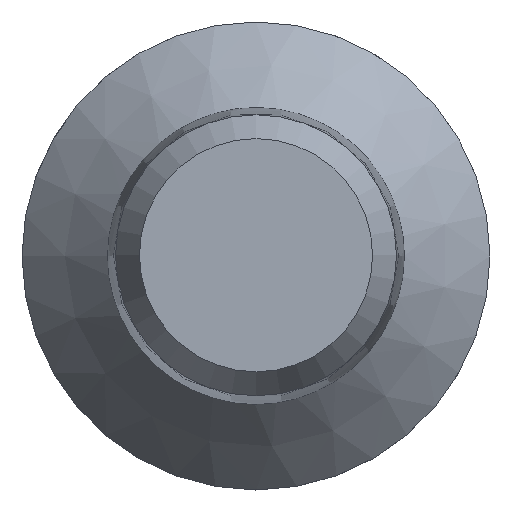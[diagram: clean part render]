
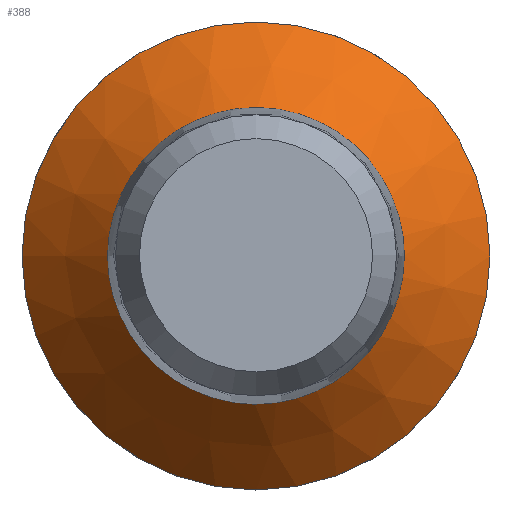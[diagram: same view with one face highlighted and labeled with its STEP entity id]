
A CAD part, top view. The second image highlights one B-rep face of the part: STEP entity #388.
In plain terms, the highlighted conical face has half-angle 41.186 degrees and reference radius 1.65 mm.
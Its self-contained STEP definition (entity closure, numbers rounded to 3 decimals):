
#120=B_SPLINE_CURVE_WITH_KNOTS('',3,(#575,#576,#577,#578,#579,#580,#581,
#582,#583,#584,#585),.UNSPECIFIED.,.F.,.F.,(4,1,1,1,1,1,1,1,4),(0.,0.125,
0.25,0.375,0.5,0.625,0.75,0.875,1.),.UNSPECIFIED.);
#121=ORIENTED_EDGE('',*,*,#227,.T.);
#122=ORIENTED_EDGE('',*,*,#228,.F.);
#227=EDGE_CURVE('',#280,#280,#317,.T.);
#228=EDGE_CURVE('',#281,#281,#120,.F.);
#280=VERTEX_POINT('',#574);
#281=VERTEX_POINT('',#586);
#317=CIRCLE('',#425,2.05);
#329=EDGE_LOOP('',(#121));
#330=EDGE_LOOP('',(#122));
#357=FACE_BOUND('',#329,.T.);
#358=FACE_BOUND('',#330,.T.);
#385=CONICAL_SURFACE('',#424,1.65,0.719);
#388=ADVANCED_FACE('',(#357,#358),#385,.T.);
#424=AXIS2_PLACEMENT_3D('',#572,#461,#462);
#425=AXIS2_PLACEMENT_3D('',#573,#463,#464);
#461=DIRECTION('',(0.,0.,-1.));
#462=DIRECTION('',(-1.,0.,0.));
#463=DIRECTION('',(0.,0.,1.));
#464=DIRECTION('',(1.,0.,0.));
#572=CARTESIAN_POINT('',(0.,0.,0.6));
#573=CARTESIAN_POINT('',(0.,0.,0.143));
#574=CARTESIAN_POINT('',(2.05,0.,0.143));
#575=CARTESIAN_POINT('',(-1.3,0.,1.));
#576=CARTESIAN_POINT('',(-1.3,0.34,1.));
#577=CARTESIAN_POINT('',(-1.019,1.018,1.));
#578=CARTESIAN_POINT('',(-0.001,1.441,1.));
#579=CARTESIAN_POINT('',(1.018,1.019,1.));
#580=CARTESIAN_POINT('',(1.441,0.001,1.));
#581=CARTESIAN_POINT('',(1.02,-1.018,1.));
#582=CARTESIAN_POINT('',(0.002,-1.441,1.));
#583=CARTESIAN_POINT('',(-1.017,-1.02,1.));
#584=CARTESIAN_POINT('',(-1.3,-0.342,1.));
#585=CARTESIAN_POINT('',(-1.3,-0.002,1.));
#586=CARTESIAN_POINT('',(-1.3,-0.001,1.));
